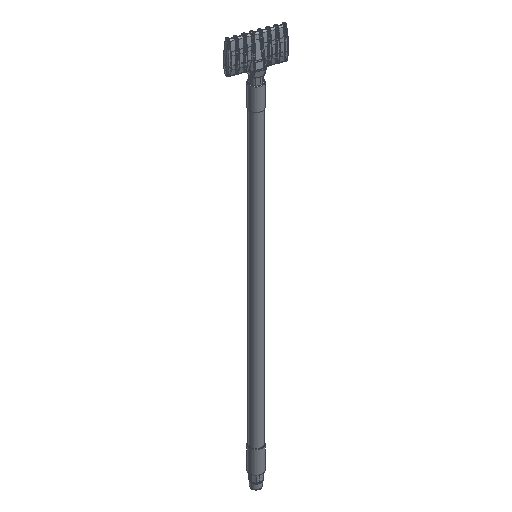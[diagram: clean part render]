
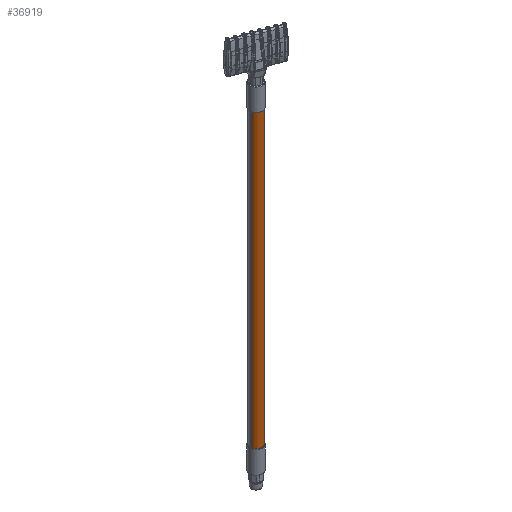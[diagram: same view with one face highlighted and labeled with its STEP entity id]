
A CAD part, isometric view. The second image highlights one B-rep face of the part: STEP entity #36919.
In plain terms, the highlighted cylindrical face has radius 8.25 mm (diameter 16.5 mm), a partial arc.
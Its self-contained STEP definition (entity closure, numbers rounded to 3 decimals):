
#3455 = CARTESIAN_POINT ( 'NONE',  ( 0., 0., 447.5 ) ) ;
#5077 = ORIENTED_EDGE ( 'NONE', *, *, #44632, .F. ) ;
#5215 = DIRECTION ( 'NONE',  ( 0., 0., -1. ) ) ;
#7142 = CARTESIAN_POINT ( 'NONE',  ( 8.25, 0., 447.5 ) ) ;
#7410 = DIRECTION ( 'NONE',  ( 1., 0., 0. ) ) ;
#8434 = AXIS2_PLACEMENT_3D ( 'NONE', #32276, #17816, #47703 ) ;
#10916 = ORIENTED_EDGE ( 'NONE', *, *, #36101, .F. ) ;
#14469 = CARTESIAN_POINT ( 'NONE',  ( 8.25, 0., 447.5 ) ) ;
#15419 = EDGE_LOOP ( 'NONE', ( #5077, #10916, #59896, #47177 ) ) ;
#16297 = CIRCLE ( 'NONE', #52498, 8.25 ) ;
#17816 = DIRECTION ( 'NONE',  ( 0., 0., -1. ) ) ;
#19815 = VECTOR ( 'NONE', #5215, 1000. ) ;
#23439 = EDGE_CURVE ( 'NONE', #54460, #37896, #27488, .T. ) ;
#24713 = VERTEX_POINT ( 'NONE', #14469 ) ;
#25048 = DIRECTION ( 'NONE',  ( 1., 0., 0. ) ) ;
#26634 = VECTOR ( 'NONE', #51127, 1000. ) ;
#26850 = CARTESIAN_POINT ( 'NONE',  ( 0., 0., 32.5 ) ) ;
#27488 = LINE ( 'NONE', #46726, #19815 ) ;
#27594 = VERTEX_POINT ( 'NONE', #55204 ) ;
#31150 = CARTESIAN_POINT ( 'NONE',  ( -8.25, 0., 32.5 ) ) ;
#31578 = DIRECTION ( 'NONE',  ( 0., 0., 1. ) ) ;
#31978 = EDGE_CURVE ( 'NONE', #37896, #27594, #60372, .T. ) ;
#32276 = CARTESIAN_POINT ( 'NONE',  ( 0., 0., 447.5 ) ) ;
#34488 = DIRECTION ( 'NONE',  ( 0., 0., 1. ) ) ;
#35422 = CYLINDRICAL_SURFACE ( 'NONE', #8434, 8.25 ) ;
#36101 = EDGE_CURVE ( 'NONE', #54460, #24713, #16297, .T. ) ;
#36919 = ADVANCED_FACE ( 'NONE', ( #40185 ), #35422, .T. ) ;
#37896 = VERTEX_POINT ( 'NONE', #31150 ) ;
#40185 = FACE_OUTER_BOUND ( 'NONE', #15419, .T. ) ;
#44506 = CARTESIAN_POINT ( 'NONE',  ( -8.25, 0., 447.5 ) ) ;
#44632 = EDGE_CURVE ( 'NONE', #24713, #27594, #50208, .T. ) ;
#46726 = CARTESIAN_POINT ( 'NONE',  ( -8.25, 0., 447.5 ) ) ;
#47177 = ORIENTED_EDGE ( 'NONE', *, *, #31978, .T. ) ;
#47703 = DIRECTION ( 'NONE',  ( -1., 0., 0. ) ) ;
#50208 = LINE ( 'NONE', #7142, #26634 ) ;
#51127 = DIRECTION ( 'NONE',  ( 0., 0., -1. ) ) ;
#52498 = AXIS2_PLACEMENT_3D ( 'NONE', #3455, #34488, #25048 ) ;
#53405 = AXIS2_PLACEMENT_3D ( 'NONE', #26850, #31578, #7410 ) ;
#54460 = VERTEX_POINT ( 'NONE', #44506 ) ;
#55204 = CARTESIAN_POINT ( 'NONE',  ( 8.25, 0., 32.5 ) ) ;
#59896 = ORIENTED_EDGE ( 'NONE', *, *, #23439, .T. ) ;
#60372 = CIRCLE ( 'NONE', #53405, 8.25 ) ;
